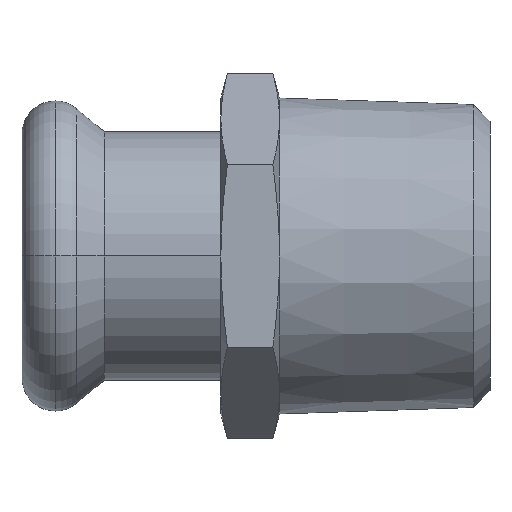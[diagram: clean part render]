
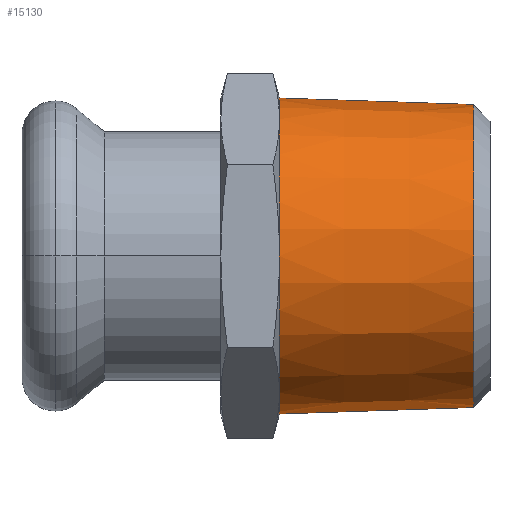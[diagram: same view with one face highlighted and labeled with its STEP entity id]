
A CAD part, front view. The second image highlights one B-rep face of the part: STEP entity #15130.
In plain terms, the highlighted conical face has half-angle 1.909 degrees and reference radius 13.5 mm.
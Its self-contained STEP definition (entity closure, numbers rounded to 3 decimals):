
#980=CARTESIAN_POINT('',(-52.97,-198.006,
0.));
#990=DIRECTION('',(-1.,0.,0.));
#1000=DIRECTION('',(0.,0.,1.));
#1010=AXIS2_PLACEMENT_3D('',#980,#990,#1000);
#1020=CIRCLE('',#1010,12.947);
#1050=CARTESIAN_POINT('',(-52.97,-198.006,
-12.947));
#1060=VERTEX_POINT('',#1050);
#1340=CARTESIAN_POINT('',(-52.97,-198.006,12.947
));
#1350=VERTEX_POINT('',#1340);
#1430=CARTESIAN_POINT('',(-69.571,-198.006,
0.));
#1440=DIRECTION('',(-1.,0.,0.));
#1450=DIRECTION('',(0.,0.,1.));
#1460=AXIS2_PLACEMENT_3D('',#1430,#1440,#1450);
#1470=CONICAL_SURFACE('',#1460,13.5,0.033);
#1480=CARTESIAN_POINT('',(-69.571,-198.006,13.5));
#1490=DIRECTION('',(-0.999,0.,0.033));
#1500=VECTOR('',#1490,405.225);
#1510=LINE('',#1480,#1500);
#1520=CARTESIAN_POINT('',(-69.571,-198.006,13.5));
#1530=VERTEX_POINT('',#1520);
#1540=EDGE_CURVE('',#1350,#1530,#1510,.T.);
#1560=CARTESIAN_POINT('',(-69.571,-198.006,
0.));
#1570=DIRECTION('',(-1.,0.,0.));
#1580=DIRECTION('',(0.,0.,1.));
#1590=AXIS2_PLACEMENT_3D('',#1560,#1570,#1580);
#1600=CIRCLE('',#1590,13.5);
#1730=CARTESIAN_POINT('',(-69.571,-198.006,-13.5));
#1740=VERTEX_POINT('',#1730);
#1770=CARTESIAN_POINT('',(-69.571,-198.006,-13.5));
#1780=DIRECTION('',(-0.999,0.,-0.033));
#1790=VECTOR('',#1780,405.225);
#1800=LINE('',#1770,#1790);
#1810=EDGE_CURVE('',#1060,#1740,#1800,.T.);
#4210=CARTESIAN_POINT('',(-69.571,-204.756,
-11.691));
#4220=VERTEX_POINT('',#4210);
#7800=CARTESIAN_POINT('',(-69.571,-211.506,
0.));
#7810=VERTEX_POINT('',#7800);
#8480=CARTESIAN_POINT('',(-69.571,-204.756,
11.691));
#8490=VERTEX_POINT('',#8480);
#10610=EDGE_CURVE('',#7810,#8490,#1600,.T.);
#10680=EDGE_CURVE('',#8490,#1530,#1600,.T.);
#10870=EDGE_CURVE('',#4220,#7810,#1600,.T.);
#10940=EDGE_CURVE('',#1740,#4220,#1600,.T.);
#15030=EDGE_CURVE('',#1060,#1350,#1020,.T.);
#15040=ORIENTED_EDGE('',*,*,#15030,.T.);
#15050=ORIENTED_EDGE('',*,*,#1810,.F.);
#15060=ORIENTED_EDGE('',*,*,#10940,.F.);
#15070=ORIENTED_EDGE('',*,*,#10870,.F.);
#15080=ORIENTED_EDGE('',*,*,#10610,.F.);
#15090=ORIENTED_EDGE('',*,*,#10680,.F.);
#15100=ORIENTED_EDGE('',*,*,#1540,.T.);
#15110=EDGE_LOOP('',(#15100,#15090,#15080,#15070,#15060,#15050,#15040));
#15120=FACE_OUTER_BOUND('',#15110,.T.);
#15130=ADVANCED_FACE('',(#15120),#1470,.T.);
